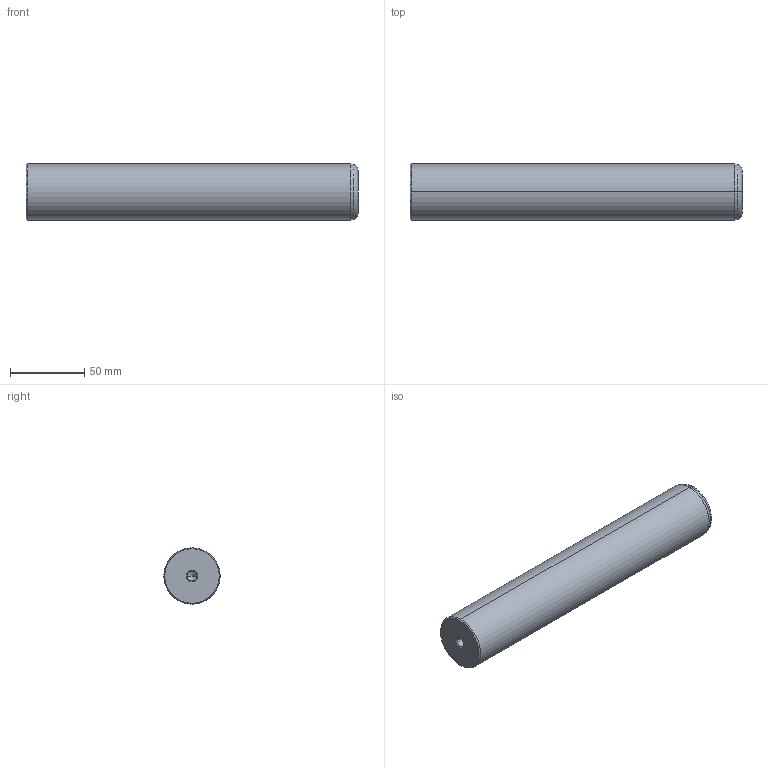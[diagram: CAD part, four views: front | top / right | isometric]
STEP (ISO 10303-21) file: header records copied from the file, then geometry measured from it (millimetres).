
FILE_DESCRIPTION(('CATIA V5 STEP Exchange'),'2;1');
FILE_NAME('C:\Users\Utente\Desktop\IO LAVORO\3D X SITO CF\X SITO\720\720-38x224.stp','2021-01-01T12:05:41+00:00',('none'),('none'),'CATIA Version 5 Release 20 GA (IN-10)','CATIA V5 STEP AP203','none');
FILE_SCHEMA(('CONFIG_CONTROL_DESIGN'));
Length unit declared in the file: millimetre
Products named in the file (1): 720-38x224
Bounding box: 224 x 38 x 38 mm (x, y, z)
Volume: 251702.2 mm3; surface area: 29696 mm2
Topology: 1 solids, 1 shells, 22 faces, 56 edges, 34 vertices
Faces by surface type: cone 12, cylinder 6, plane 2, torus 2
Entity records: 755 total; most frequent: CARTESIAN_POINT 216, ORIENTED_EDGE 104, DIRECTION 89, EDGE_CURVE 52, AXIS2_PLACEMENT_3D 50, VERTEX_POINT 34, CIRCLE 27, EDGE_LOOP 24
